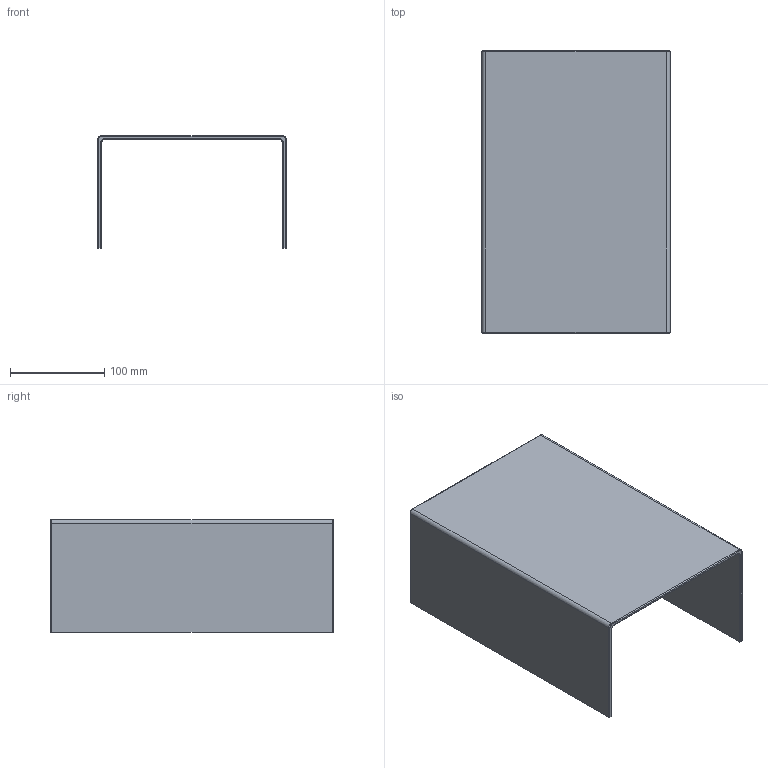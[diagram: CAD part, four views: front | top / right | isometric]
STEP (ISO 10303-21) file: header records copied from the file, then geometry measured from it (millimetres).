
FILE_DESCRIPTION (( 'STEP AP203' ), '1' );
FILE_NAME ('WL.Q20.00.STEP', '2026-03-02T11:00:59', ( '' ), ( '' ), 'SwSTEP 2.0', 'SolidWorks 2013', '' );
FILE_SCHEMA (( 'CONFIG_CONTROL_DESIGN' ));
Length unit declared in the file: millimetre
Products named in the file (1): WL.Q20.00
Bounding box: 200 x 300 x 120 mm (x, y, z)
Volume: 518032.1 mm3; surface area: 262258.3 mm2
Topology: 1 solids, 1 shells, 34 faces, 80 edges, 48 vertices
Faces by surface type: cylinder 16, plane 10, torus 8
Entity records: 1053 total; most frequent: DIRECTION 190, CARTESIAN_POINT 163, ORIENTED_EDGE 160, EDGE_CURVE 80, AXIS2_PLACEMENT_3D 75, VERTEX_POINT 48, VECTOR 40, LINE 40
